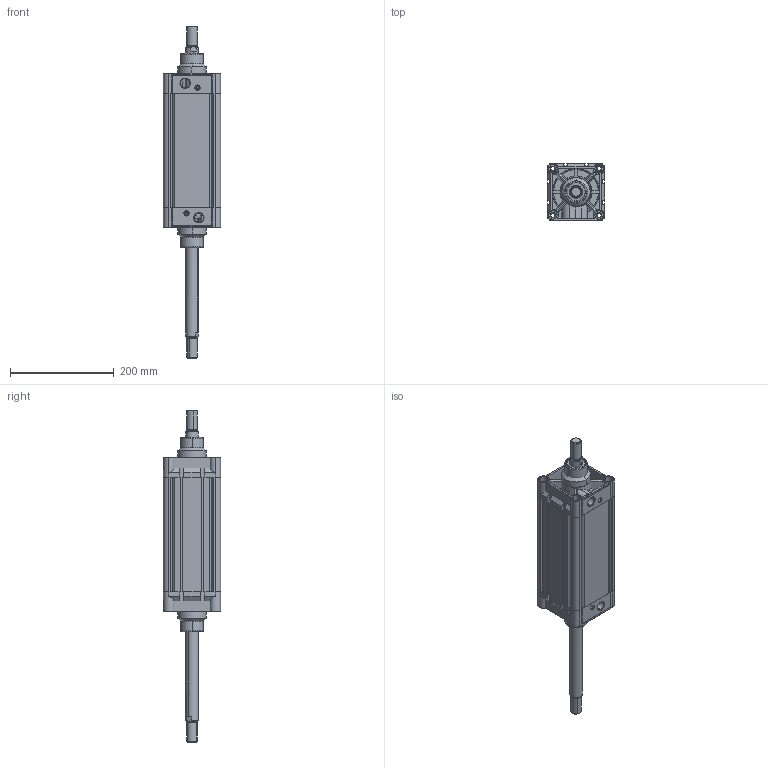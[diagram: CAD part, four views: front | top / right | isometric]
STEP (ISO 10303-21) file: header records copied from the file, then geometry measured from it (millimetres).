
FILE_DESCRIPTION (( 'STEP AP203' ), '1' );
FILE_NAME ('KDNC100X160CIFTMILLI-CYLINDER.STEP', '2015-03-18T11:47:05', ( 'user' ), ( '' ), 'SwSTEP 2.0', 'SolidWorks 2013', '' );
FILE_SCHEMA (( 'CONFIG_CONTROL_DESIGN' ));
Length unit declared in the file: millimetre
Products named in the file (6): SAPLAMALI M尳 100x160; KDNC100X160CIFTMILLI-CYLINDER; 烰 KAPAK  100; ORTA PÝSTON 100 ÇÝFT MÝLLÝ; KDNC 100x160 BORU; Piston Mili 100x160
Assembly tree (6 placements, depth 2):
  KDNC100X160CIFTMILLI-CYLINDER
    烰 KAPAK  100  x2
    ORTA PÝSTON 100 ÇÝFT MÝLLÝ
    KDNC 100x160 BORU
    Piston Mili 100x160
    SAPLAMALI M尳 100x160
Bounding box: 111 x 111 x 640 mm (x, y, z)
Volume: 1884560.1 mm3; surface area: 521905.9 mm2
Topology: 6 solids, 8 shells, 1163 faces, 2996 edges, 1906 vertices
Faces by surface type: cylinder 428, plane 385, cone 194, bspline 156
Entity records: 31050 total; most frequent: CARTESIAN_POINT 13554, ORIENTED_EDGE 3778, DIRECTION 3129, EDGE_CURVE 1889, VERTEX_POINT 1211, AXIS2_PLACEMENT_3D 1143, VECTOR 843, LINE 843
